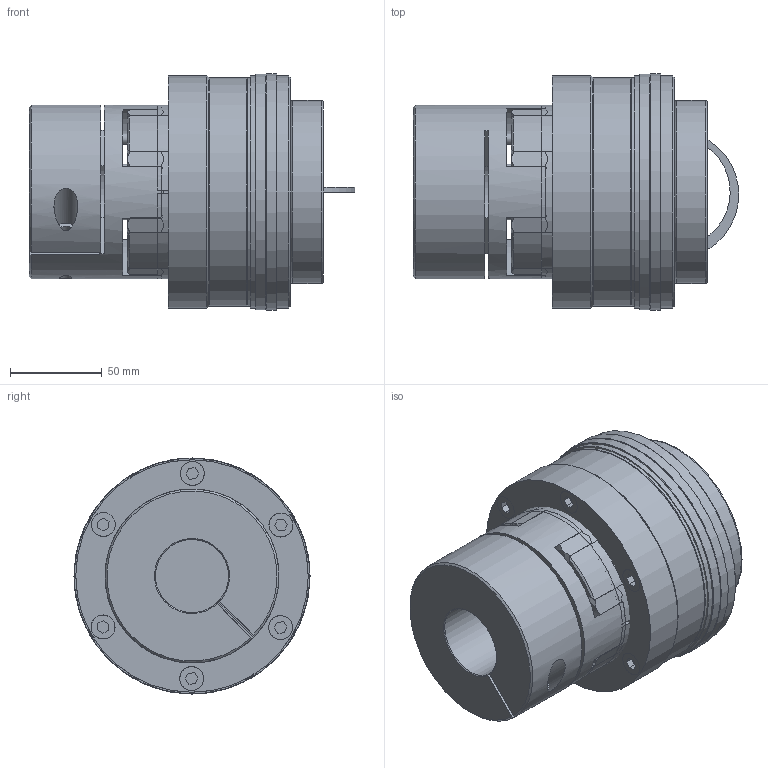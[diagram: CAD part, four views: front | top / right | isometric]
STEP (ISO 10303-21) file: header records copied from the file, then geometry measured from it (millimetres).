
FILE_DESCRIPTION( ( 'Unknown' ), '1' );
FILE_NAME( 'C:/Dokumente und Einstellungen/Sven/Desktop/hp kbk/E-KI/KBK EKI-42.stp', 'Unknown', ( 'Unknown' ), ( 'Unknown' ), 'XStep 1.0', 'Unknown', ' ' );
FILE_SCHEMA( ( 'automotive_design' ) );
Length unit declared in the file: millimetre
Products named in the file (18): Assem1; Assem2; Assem3; Assem4; ball_bearing_-_6013_0_01; ball_bearing_-_6013_0_02; ball_bearing_-_6013_0_03; Zylinderschraube DIN 912_4; KBK L-I-500 Grundkörper; Konusbuchse 500; Stellring 500; Druckring 500; Flansch 500; a_65; din_en_24017_m8x30_1; Elastormerflansch 42; Zahnkranz 42; KBE2-42 Nabe
Bounding box: 177.79 x 129 x 129 mm (x, y, z)
Volume: 2228146.9 mm3; surface area: 616674.5 mm2
Topology: 42 solids, 42 shells, 1011 faces, 2274 edges, 1466 vertices
Faces by surface type: plane 355, cylinder 346, cone 272, torus 38
Full cylindrical faces by diameter (mm): 3 x4, 3.242 x6, 5.1 x6, 5.2 x6, 6 x16, 6.647 x32, 8 x15, 8.2 x12, 8.5 x2, 9 x12, 11.63 x7, 13 x10, 13.1 x12, 35 x4, 40 x4, 46 x4, 62 x2, 62.6 x2, 65 x7, 76.3 x6, 86 x4, 89 x2, 89.1 x6, 91 x2, 95 x2, 100 x7, 104.5 x2, 113 x2, 114 x2, 125 x4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
Entity records: 11865 total; most frequent: CARTESIAN_POINT 2623, DIRECTION 1942, ORIENTED_EDGE 1494, AXIS2_PLACEMENT_3D 892, EDGE_CURVE 747, EDGE_LOOP 650, VERTEX_POINT 555, FACE_OUTER_BOUND 503
